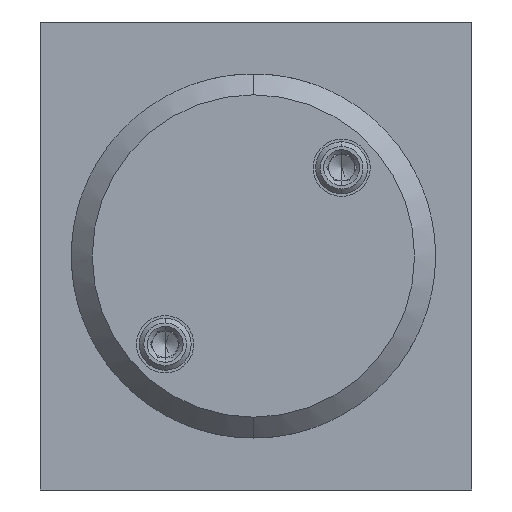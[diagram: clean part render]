
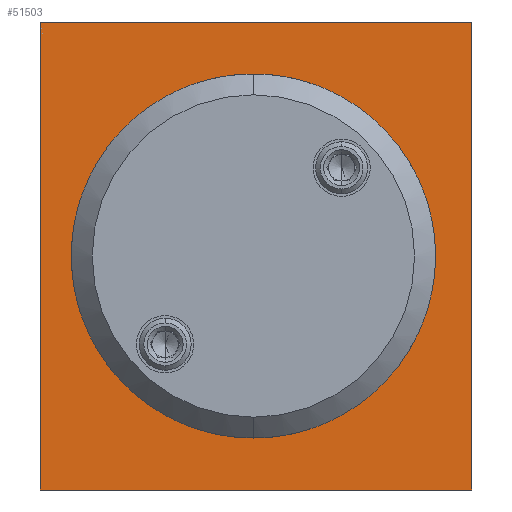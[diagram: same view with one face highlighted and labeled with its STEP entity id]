
A CAD part, left-side view. The second image highlights one B-rep face of the part: STEP entity #51503.
In plain terms, the highlighted planar face has unit normal (-1, 0, 0).
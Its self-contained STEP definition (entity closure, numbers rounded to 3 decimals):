
#3270 = DIRECTION ( 'NONE',  ( 0., -1., 0. ) ) ;
#5259 = VECTOR ( 'NONE', #54603, 1000. ) ;
#5872 = CARTESIAN_POINT ( 'NONE',  ( 0., -20.75, 22.5 ) ) ;
#7386 = DIRECTION ( 'NONE',  ( 0., 1., 0. ) ) ;
#9208 = CIRCLE ( 'NONE', #48049, 16. ) ;
#10959 = CARTESIAN_POINT ( 'NONE',  ( 0., 0.25, 0. ) ) ;
#13066 = CARTESIAN_POINT ( 'NONE',  ( 0., -20.75, -22.5 ) ) ;
#13419 = DIRECTION ( 'NONE',  ( 0., 0., 1. ) ) ;
#15502 = DIRECTION ( 'NONE',  ( 0., -1., 0. ) ) ;
#15821 = EDGE_LOOP ( 'NONE', ( #36688, #36158 ) ) ;
#16492 = VECTOR ( 'NONE', #7386, 1000. ) ;
#16669 = CARTESIAN_POINT ( 'NONE',  ( 0., 16.25, 0. ) ) ;
#19988 = FACE_BOUND ( 'NONE', #15821, .T. ) ;
#19990 = PLANE ( 'NONE',  #32908 ) ;
#20376 = DIRECTION ( 'NONE',  ( -1., 0., 0. ) ) ;
#20656 = EDGE_CURVE ( 'NONE', #29402, #50227, #57995, .T. ) ;
#21184 = EDGE_CURVE ( 'NONE', #50227, #33142, #45081, .T. ) ;
#21641 = EDGE_CURVE ( 'NONE', #33142, #47376, #57566, .T. ) ;
#21991 = EDGE_CURVE ( 'NONE', #47376, #29402, #40788, .T. ) ;
#22252 = EDGE_CURVE ( 'NONE', #30837, #26922, #9208, .T. ) ;
#22548 = EDGE_LOOP ( 'NONE', ( #35757, #35319, #35200, #34630 ) ) ;
#26922 = VERTEX_POINT ( 'NONE', #16669 ) ;
#28486 = EDGE_CURVE ( 'NONE', #26922, #30837, #29958, .T. ) ;
#29402 = VERTEX_POINT ( 'NONE', #45294 ) ;
#29958 = CIRCLE ( 'NONE', #44339, 16. ) ;
#30419 = DIRECTION ( 'NONE',  ( -1., 0., 0. ) ) ;
#30837 = VERTEX_POINT ( 'NONE', #54150 ) ;
#32046 = VECTOR ( 'NONE', #37665, 1000. ) ;
#32177 = FACE_OUTER_BOUND ( 'NONE', #22548, .T. ) ;
#32908 = AXIS2_PLACEMENT_3D ( 'NONE', #47755, #20376, #52313 ) ;
#33142 = VERTEX_POINT ( 'NONE', #37121 ) ;
#34630 = ORIENTED_EDGE ( 'NONE', *, *, #20656, .F. ) ;
#35200 = ORIENTED_EDGE ( 'NONE', *, *, #21184, .F. ) ;
#35319 = ORIENTED_EDGE ( 'NONE', *, *, #21641, .F. ) ;
#35757 = ORIENTED_EDGE ( 'NONE', *, *, #21991, .F. ) ;
#36158 = ORIENTED_EDGE ( 'NONE', *, *, #28486, .F. ) ;
#36547 = CARTESIAN_POINT ( 'NONE',  ( 0., -20.75, -22.5 ) ) ;
#36688 = ORIENTED_EDGE ( 'NONE', *, *, #22252, .F. ) ;
#37121 = CARTESIAN_POINT ( 'NONE',  ( 0., -20.75, 22.5 ) ) ;
#37665 = DIRECTION ( 'NONE',  ( 0., -1., 0. ) ) ;
#39211 = VECTOR ( 'NONE', #13419, 1000. ) ;
#40788 = LINE ( 'NONE', #13066, #16492 ) ;
#40798 = CARTESIAN_POINT ( 'NONE',  ( 0., 20.75, 22.5 ) ) ;
#42880 = DIRECTION ( 'NONE',  ( -1., 0., 0. ) ) ;
#44339 = AXIS2_PLACEMENT_3D ( 'NONE', #10959, #42880, #15502 ) ;
#45081 = LINE ( 'NONE', #5872, #32046 ) ;
#45294 = CARTESIAN_POINT ( 'NONE',  ( 0., 20.75, -22.5 ) ) ;
#46757 = CARTESIAN_POINT ( 'NONE',  ( 0., 20.75, 22.5 ) ) ;
#47376 = VERTEX_POINT ( 'NONE', #36547 ) ;
#47755 = CARTESIAN_POINT ( 'NONE',  ( 0., 20.75, -22.5 ) ) ;
#48049 = AXIS2_PLACEMENT_3D ( 'NONE', #57692, #30419, #3270 ) ;
#50046 = CARTESIAN_POINT ( 'NONE',  ( 0., -20.75, 22.5 ) ) ;
#50227 = VERTEX_POINT ( 'NONE', #46757 ) ;
#51503 = ADVANCED_FACE ( 'NONE', ( #19988, #32177 ), #19990, .T. ) ;
#52313 = DIRECTION ( 'NONE',  ( 0., 0., 1. ) ) ;
#54150 = CARTESIAN_POINT ( 'NONE',  ( 0., -15.75, 0. ) ) ;
#54603 = DIRECTION ( 'NONE',  ( 0., 0., -1. ) ) ;
#57566 = LINE ( 'NONE', #50046, #5259 ) ;
#57692 = CARTESIAN_POINT ( 'NONE',  ( 0., 0.25, 0. ) ) ;
#57995 = LINE ( 'NONE', #40798, #39211 ) ;
